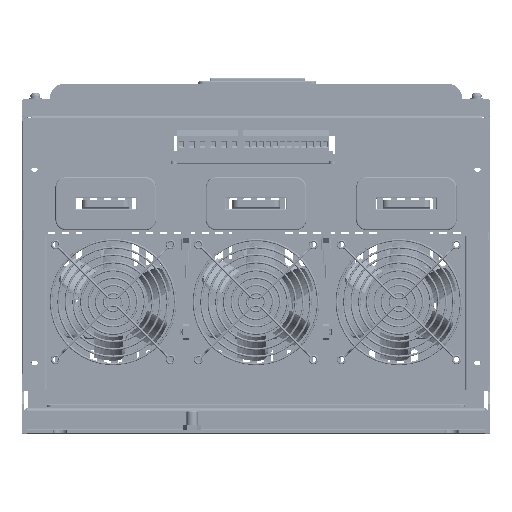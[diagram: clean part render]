
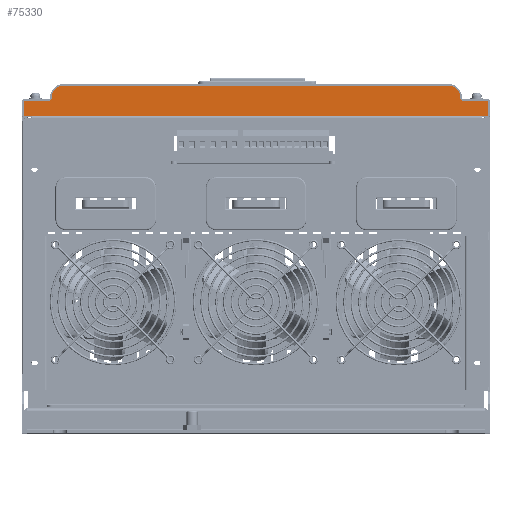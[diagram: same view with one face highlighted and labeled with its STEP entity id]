
A CAD part, top view. The second image highlights one B-rep face of the part: STEP entity #75330.
In plain terms, the highlighted planar face has unit normal (0, 0, 1) as drawn and (0, 0, -1) by its records, which use the part's own axes.
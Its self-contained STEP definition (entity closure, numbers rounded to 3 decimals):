
#74933=CARTESIAN_POINT('',(-12.5,-165.8,-210.5));
#74934=DIRECTION('',(0.,0.,1.));
#74935=DIRECTION('',(0.,-1.,0.));
#74936=AXIS2_PLACEMENT_3D('',#74933,#74934,#74935);
#74941=DIRECTION('',(0.,1.,0.));
#74942=VECTOR('',#74941,17.8);
#74943=CARTESIAN_POINT('',(-12.,-165.8,-210.5));
#74944=LINE('',#74943,#74942);
#74948=CARTESIAN_POINT('',(-10.3,-148.,-210.5));
#74949=DIRECTION('',(0.,0.,-1.));
#74950=DIRECTION('',(-1.,0.,0.));
#74951=AXIS2_PLACEMENT_3D('',#74948,#74949,#74950);
#74956=DIRECTION('',(1.,0.,0.));
#74957=VECTOR('',#74956,0.3);
#74958=CARTESIAN_POINT('',(-10.3,-146.3,-210.5));
#74959=LINE('',#74958,#74957);
#74963=CARTESIAN_POINT('',(-10.,-137.5,-210.5));
#74964=DIRECTION('',(0.,0.,1.));
#74965=DIRECTION('',(0.,-1.,0.));
#74966=AXIS2_PLACEMENT_3D('',#74963,#74964,#74965);
#74971=DIRECTION('',(0.,1.,0.));
#74972=VECTOR('',#74971,275.);
#74973=CARTESIAN_POINT('',(-1.2,-137.5,-210.5));
#74974=LINE('',#74973,#74972);
#74978=CARTESIAN_POINT('',(-10.,137.5,-210.5));
#74979=DIRECTION('',(0.,0.,1.));
#74980=DIRECTION('',(1.,0.,0.));
#74981=AXIS2_PLACEMENT_3D('',#74978,#74979,#74980);
#74986=DIRECTION('',(-1.,0.,0.));
#74987=VECTOR('',#74986,0.3);
#74988=CARTESIAN_POINT('',(-10.,146.3,-210.5));
#74989=LINE('',#74988,#74987);
#74993=CARTESIAN_POINT('',(-10.3,148.,-210.5));
#74994=DIRECTION('',(0.,0.,-1.));
#74995=DIRECTION('',(0.,-1.,0.));
#74996=AXIS2_PLACEMENT_3D('',#74993,#74994,#74995);
#75001=DIRECTION('',(0.,1.,0.));
#75002=VECTOR('',#75001,17.8);
#75003=CARTESIAN_POINT('',(-12.,148.,-210.5));
#75004=LINE('',#75003,#75002);
#75008=CARTESIAN_POINT('',(-12.5,165.8,-210.5));
#75009=DIRECTION('',(0.,0.,1.));
#75010=DIRECTION('',(1.,0.,0.));
#75011=AXIS2_PLACEMENT_3D('',#75008,#75009,#75010);
#75016=DIRECTION('',(-1.,0.,0.));
#75017=VECTOR('',#75016,10.5);
#75018=CARTESIAN_POINT('',(-12.5,166.3,-210.5));
#75019=LINE('',#75018,#75017);
#75023=DIRECTION('',(0.,-1.,0.));
#75024=VECTOR('',#75023,332.6);
#75025=CARTESIAN_POINT('',(-23.,166.3,-210.5));
#75026=LINE('',#75025,#75024);
#75030=DIRECTION('',(1.,0.,0.));
#75031=VECTOR('',#75030,10.5);
#75032=CARTESIAN_POINT('',(-23.,-166.3,-210.5));
#75033=LINE('',#75032,#75031);
#75239=CARTESIAN_POINT('',(-12.5,-166.3,-210.5));
#75240=CARTESIAN_POINT('',(-12.,-165.8,-210.5));
#75241=VERTEX_POINT('',#75239);
#75242=VERTEX_POINT('',#75240);
#75243=CARTESIAN_POINT('',(-12.,-148.,-210.5));
#75244=VERTEX_POINT('',#75243);
#75245=CARTESIAN_POINT('',(-10.3,-146.3,-210.5));
#75246=VERTEX_POINT('',#75245);
#75247=CARTESIAN_POINT('',(-10.,-146.3,-210.5));
#75248=VERTEX_POINT('',#75247);
#75249=CARTESIAN_POINT('',(-1.2,-137.5,-210.5));
#75250=VERTEX_POINT('',#75249);
#75251=CARTESIAN_POINT('',(-1.2,137.5,-210.5));
#75252=VERTEX_POINT('',#75251);
#75253=CARTESIAN_POINT('',(-10.,146.3,-210.5));
#75254=VERTEX_POINT('',#75253);
#75255=CARTESIAN_POINT('',(-10.3,146.3,-210.5));
#75256=VERTEX_POINT('',#75255);
#75257=CARTESIAN_POINT('',(-12.,148.,-210.5));
#75258=VERTEX_POINT('',#75257);
#75259=CARTESIAN_POINT('',(-12.,165.8,-210.5));
#75260=VERTEX_POINT('',#75259);
#75261=CARTESIAN_POINT('',(-12.5,166.3,-210.5));
#75262=VERTEX_POINT('',#75261);
#75263=CARTESIAN_POINT('',(-23.,166.3,-210.5));
#75264=VERTEX_POINT('',#75263);
#75265=CARTESIAN_POINT('',(-23.,-166.3,-210.5));
#75266=VERTEX_POINT('',#75265);
#75295=CARTESIAN_POINT('',(0.,0.,-210.5));
#75296=DIRECTION('',(0.,0.,1.));
#75297=DIRECTION('',(0.,-1.,0.));
#75298=AXIS2_PLACEMENT_3D('',#75295,#75296,#75297);
#75299=PLANE('',#75298);
#75301=ORIENTED_EDGE('',*,*,#75300,.T.);
#75303=ORIENTED_EDGE('',*,*,#75302,.T.);
#75305=ORIENTED_EDGE('',*,*,#75304,.T.);
#75307=ORIENTED_EDGE('',*,*,#75306,.T.);
#75309=ORIENTED_EDGE('',*,*,#75308,.T.);
#75311=ORIENTED_EDGE('',*,*,#75310,.T.);
#75313=ORIENTED_EDGE('',*,*,#75312,.T.);
#75315=ORIENTED_EDGE('',*,*,#75314,.T.);
#75317=ORIENTED_EDGE('',*,*,#75316,.T.);
#75319=ORIENTED_EDGE('',*,*,#75318,.T.);
#75321=ORIENTED_EDGE('',*,*,#75320,.T.);
#75323=ORIENTED_EDGE('',*,*,#75322,.T.);
#75325=ORIENTED_EDGE('',*,*,#75324,.T.);
#75327=ORIENTED_EDGE('',*,*,#75326,.T.);
#75328=EDGE_LOOP('',(#75301,#75303,#75305,#75307,#75309,#75311,#75313,#75315,
#75317,#75319,#75321,#75323,#75325,#75327));
#75329=FACE_OUTER_BOUND('',#75328,.F.);
#75330=ADVANCED_FACE('',(#75329),#75299,.F.);
#74937=CIRCLE('',#74936,0.5);
#74952=CIRCLE('',#74951,1.7);
#74967=CIRCLE('',#74966,8.8);
#74982=CIRCLE('',#74981,8.8);
#74997=CIRCLE('',#74996,1.7);
#75012=CIRCLE('',#75011,0.5);
#75300=EDGE_CURVE('',#75241,#75242,#74937,.T.);
#75302=EDGE_CURVE('',#75242,#75244,#74944,.T.);
#75304=EDGE_CURVE('',#75244,#75246,#74952,.T.);
#75306=EDGE_CURVE('',#75246,#75248,#74959,.T.);
#75308=EDGE_CURVE('',#75248,#75250,#74967,.T.);
#75310=EDGE_CURVE('',#75250,#75252,#74974,.T.);
#75312=EDGE_CURVE('',#75252,#75254,#74982,.T.);
#75314=EDGE_CURVE('',#75254,#75256,#74989,.T.);
#75316=EDGE_CURVE('',#75256,#75258,#74997,.T.);
#75318=EDGE_CURVE('',#75258,#75260,#75004,.T.);
#75320=EDGE_CURVE('',#75260,#75262,#75012,.T.);
#75322=EDGE_CURVE('',#75262,#75264,#75019,.T.);
#75324=EDGE_CURVE('',#75264,#75266,#75026,.T.);
#75326=EDGE_CURVE('',#75266,#75241,#75033,.T.);
